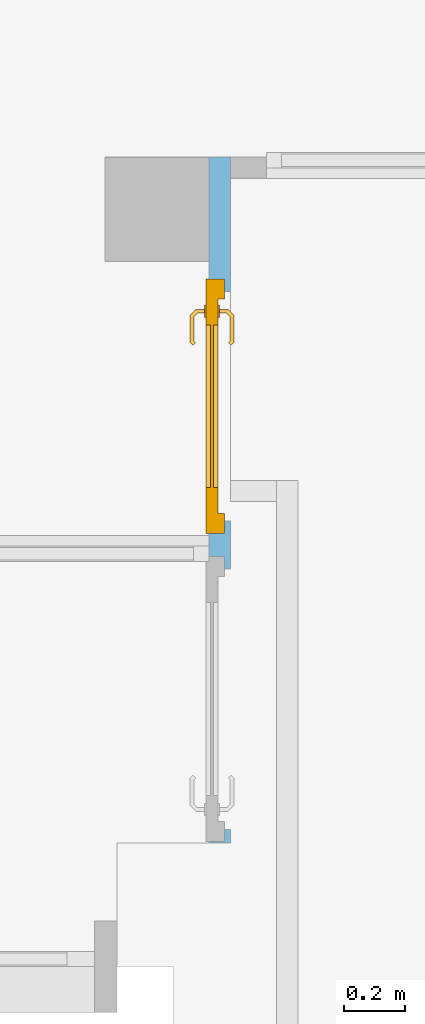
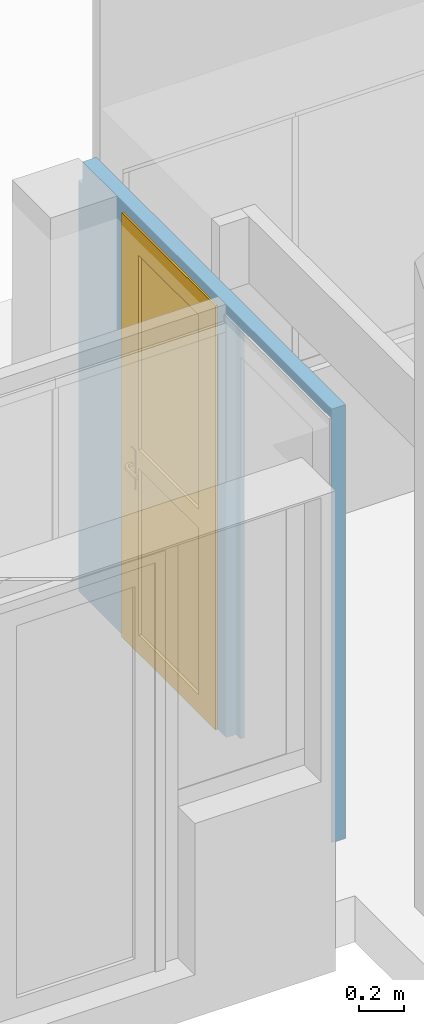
# One storey, part 9 of 19: 1 door, 2 openings, plus 1 element that does not belong to this part.
"""IFC4 building model written with IfcOpenShell, lengths in metres."""

import ifcopenshell
import ifcopenshell.guid

model = None  # the IFC model being written
_history = None  # IfcOwnerHistory: only IFC2X3 demands one
_inside = {}  # id of a spatial element -> (the spatial element, [elements in it])
_under = {}  # id of a project, library or spatial element -> (it, [spatial elements below it])
_declared = {}  # id of a project -> (the project, [libraries it declares])
_typed = {}  # id of a type object -> (the type object, [elements of that type])
_made_of = {}  # id of a material, layer set ... -> (it, [elements and type objects made of it])


def new_model(schema):
    """Start an empty IFC model of exactly this schema.

    Asked for "IFC4X3", IfcOpenShell would pick the latest addendum, in which some entities
    have other attributes; the version numbers below select the first issue.
    IFC2X3 requires an IfcOwnerHistory on every rooted entity: one is made here for all.
    """
    global model, _history
    if schema == "IFC4X3":
        model = ifcopenshell.file(schema_version=(4, 3, 0, 0))
    else:
        model = ifcopenshell.file(schema=schema)
    _inside.clear()
    _under.clear()
    _declared.clear()
    _typed.clear()
    _made_of.clear()
    _history = None
    if model.schema == "IFC2X3":
        org = make("IfcOrganization", Name="unknown")
        user = make(
            "IfcPersonAndOrganization",
            ThePerson=make("IfcPerson", FamilyName="unknown"),
            TheOrganization=org,
        )
        app = make(
            "IfcApplication",
            ApplicationDeveloper=org,
            Version="unknown",
            ApplicationFullName="unknown",
            ApplicationIdentifier="unknown",
        )
        _history = make(
            "IfcOwnerHistory",
            OwningUser=user,
            OwningApplication=app,
            ChangeAction="ADDED",
            CreationDate=0,
        )
    return model


def make(cls, **values):
    """One entity of the class cls with the attributes given. An attribute that is None is left unset."""
    return model.create_entity(
        cls, **{name: value for name, value in values.items() if value is not None}
    )


def entity(cls, *values):
    """Any entity or typed value of the class cls, its attributes in the order of the schema. None: left unset."""
    e = model.create_entity(cls)
    for i, value in enumerate(values):
        if value is not None:
            e[i] = value
    return e


def rooted(cls, **values):
    """An entity with a GlobalId (a new one), such as an element, a storey or a relation."""
    return make(cls, GlobalId=ifcopenshell.guid.new(), OwnerHistory=_history, **values)


def si_unit(unit_type, name, prefix=None):
    """IfcSIUnit, for example si_unit("LENGTHUNIT", "METRE", prefix="MILLI")."""
    return make("IfcSIUnit", UnitType=unit_type, Prefix=prefix, Name=name)


def converted_unit(unit_type, name, factor, base, dimensions=None, offset=None):
    """IfcConversionBasedUnit, such as the inch: factor (a typed value) times the base unit."""
    return make(
        "IfcConversionBasedUnit"
        if offset is None
        else "IfcConversionBasedUnitWithOffset",
        ConversionOffset=offset,
        Dimensions=None
        if dimensions is None
        else entity("IfcDimensionalExponents", *dimensions),
        UnitType=unit_type,
        Name=name,
        ConversionFactor=make(
            "IfcMeasureWithUnit", ValueComponent=factor, UnitComponent=base
        ),
    )


def derived_unit(unit_type, elements):
    """IfcDerivedUnit: a product of units, each with its exponent."""
    return make(
        "IfcDerivedUnit",
        Elements=[
            make("IfcDerivedUnitElement", Unit=unit, Exponent=power)
            for unit, power in elements
        ],
        UnitType=unit_type,
    )


def assignment(units):
    """IfcUnitAssignment: the units of a project."""
    return None if units is None else make("IfcUnitAssignment", Units=units)


def point(xyz):
    """IfcCartesianPoint."""
    return None if xyz is None else make("IfcCartesianPoint", Coordinates=xyz)


def direction(xyz):
    """IfcDirection."""
    return None if xyz is None else make("IfcDirection", DirectionRatios=xyz)


def frame(location, z_axis=None, x_axis=None):
    """IfcAxis2Placement3D, a coordinate frame: its origin and axes. An axis left out is left unset."""
    return make(
        "IfcAxis2Placement3D",
        Location=point(location),
        Axis=direction(z_axis),
        RefDirection=direction(x_axis),
    )


def origin():
    """The frame at (0, 0, 0) with its axes left unset."""
    return frame((0.0, 0.0, 0.0))


def place(relative_to, where):
    """IfcLocalPlacement: puts the frame where relative to a parent placement (None: the world)."""
    return make(
        "IfcLocalPlacement", PlacementRelTo=relative_to, RelativePlacement=where
    )


def context(
    kind, dimensions, precision=None, world=None, true_north=None, identifier=None
):
    """IfcGeometricRepresentationContext, for example the 3D "Model" context."""
    return make(
        "IfcGeometricRepresentationContext",
        ContextIdentifier=identifier,
        ContextType=kind,
        CoordinateSpaceDimension=dimensions,
        Precision=precision,
        WorldCoordinateSystem=world,
        TrueNorth=true_north,
    )


def subcontext(parent, identifier, kind, view, scale=None):
    """IfcGeometricRepresentationSubContext, for example "Body" below "Model"."""
    return make(
        "IfcGeometricRepresentationSubContext",
        ContextIdentifier=identifier,
        ContextType=kind,
        ParentContext=parent,
        TargetScale=scale,
        TargetView=view,
    )


def project(units=None, contexts=None):
    """IfcProject with its units and contexts."""
    return rooted(
        "IfcProject",
        Name="project",
        RepresentationContexts=contexts,
        UnitsInContext=assignment(units),
    )


def spatial(cls, under=None, at=None, **own):
    """A site, building, storey or space (cls), placed at a placement, below another one or the project."""
    s = rooted(cls, ObjectPlacement=at, **own)
    if under is not None:
        _under.setdefault(under.id(), (under, []))[1].append(s)
    return s


def point_list(points):
    """IfcCartesianPointList2D or 3D."""
    cls = (
        "IfcCartesianPointList2D" if len(points[0]) == 2 else "IfcCartesianPointList3D"
    )
    return make(cls, CoordList=points)


def polygons(points, faces, closed=None, point_numbers=None):
    """IfcPolygonalFaceSet: a face is its outer loop, then its inner loops; points numbered from 1."""
    made = []
    for loops in faces:
        if len(loops) == 1:
            made.append(make("IfcIndexedPolygonalFace", CoordIndex=loops[0]))
        else:
            made.append(
                make(
                    "IfcIndexedPolygonalFaceWithVoids",
                    CoordIndex=loops[0],
                    InnerCoordIndices=loops[1:],
                )
            )
    return make(
        "IfcPolygonalFaceSet",
        Coordinates=point_list(points),
        Closed=closed,
        Faces=made,
        PnIndex=point_numbers,
    )


def shape(context_of_items, identifier, shape_type, items):
    """IfcShapeRepresentation: the items that make up one representation, for example the "Body"."""
    return make(
        "IfcShapeRepresentation",
        ContextOfItems=context_of_items,
        RepresentationIdentifier=identifier,
        RepresentationType=shape_type,
        Items=items,
    )


def source(mapping_origin, context_of_items, identifier, shape_type, items):
    """IfcRepresentationMap: a shape defined once, which mapped items show again and again."""
    return make(
        "IfcRepresentationMap",
        MappingOrigin=mapping_origin,
        MappedRepresentation=shape(context_of_items, identifier, shape_type, items),
    )


def transform(
    local_origin,
    x_axis=None,
    y_axis=None,
    z_axis=None,
    scale=None,
    scale2=None,
    scale3=None,
    uniform=True,
):
    """IfcCartesianTransformationOperator3D, or its non-uniform kind. x_axis, y_axis, z_axis: its Axis1, 2, 3."""
    if uniform:
        return make(
            "IfcCartesianTransformationOperator3D",
            Axis1=direction(x_axis),
            Axis2=direction(y_axis),
            LocalOrigin=point(local_origin),
            Scale=scale,
            Axis3=direction(z_axis),
        )
    return make(
        "IfcCartesianTransformationOperator3DnonUniform",
        Axis1=direction(x_axis),
        Axis2=direction(y_axis),
        LocalOrigin=point(local_origin),
        Scale=scale,
        Axis3=direction(z_axis),
        Scale2=scale2,
        Scale3=scale3,
    )


def mapped(mapping_source, mapping_target):
    """IfcMappedItem: shows the shape of a source again, moved by a transform."""
    return make(
        "IfcMappedItem", MappingSource=mapping_source, MappingTarget=mapping_target
    )


def material(Name=None, Category=None):
    """IfcMaterial."""
    return make("IfcMaterial", Name=Name, Category=Category)


def material_list(materials):
    """IfcMaterialList."""
    return make("IfcMaterialList", Materials=materials)


def layer(
    of_material, thickness, ventilated=None, Name=None, Category=None, Priority=None
):
    """IfcMaterialLayer: one layer of a wall or slab, of a material (None: an air gap)."""
    return make(
        "IfcMaterialLayer",
        Material=of_material,
        LayerThickness=thickness,
        IsVentilated=ventilated,
        Name=Name,
        Category=Category,
        Priority=Priority,
    )


def layer_set(layers, Name=None):
    """IfcMaterialLayerSet."""
    return make("IfcMaterialLayerSet", MaterialLayers=layers, LayerSetName=Name)


def constituent(of_material, Name=None, Category=None, fraction=None):
    """IfcMaterialConstituent: one of the materials an element consists of."""
    return make(
        "IfcMaterialConstituent",
        Name=Name,
        Material=of_material,
        Fraction=fraction,
        Category=Category,
    )


def constituent_set(constituents=None, Name=None):
    """IfcMaterialConstituentSet."""
    return make(
        "IfcMaterialConstituentSet", Name=Name, MaterialConstituents=constituents
    )


def made_of(thing, what):
    """Note that an element or type object is made of a material, layer set ...; save() writes the relation."""
    if what is not None:
        _made_of.setdefault(what.id(), (what, []))[1].append(thing)
    return thing


def type_object(cls, material=None, **own):
    """A type object (cls), such as IfcWallType, which elements share."""
    return made_of(rooted(cls, **own), material)


def type_shapes(of_type, sources):
    """Give a type object the sources (RepresentationMaps) that its elements show as mapped items."""
    of_type.RepresentationMaps = sources


def element(
    cls,
    number,
    at=None,
    inside=None,
    cuts=None,
    type_object=None,
    material=None,
    context=None,
    identifier="Body",
    shape_type=None,
    held_by="IfcProductDefinitionShape",
    body=None,
    shapes=None,
    **own,
):
    """One element of the class cls, such as IfcWall. Its Tag is "e" and its number.

    at: its placement. inside: the storey or other place that contains it. cuts: it is an
    opening in that element (IfcRelVoidsElement). A single representation is given by context,
    identifier, shape_type and body (its items); several are given by shapes. held_by: the class
    of the entity that holds the representations. save() writes the other relations.
    """
    e = rooted(cls, Tag="e%d" % number, ObjectPlacement=at, **own)
    if body is not None:
        shapes = [shape(context, identifier, shape_type, body)]
    if shapes is not None:
        e.Representation = make(held_by, Representations=shapes)
    if inside is not None:
        _inside.setdefault(inside.id(), (inside, []))[1].append(e)
    if cuts is not None:
        rooted(
            "IfcRelVoidsElement", RelatingBuildingElement=cuts, RelatedOpeningElement=e
        )
    if type_object is not None:
        _typed.setdefault(type_object.id(), (type_object, []))[1].append(e)
    return made_of(e, material)


def fill(opening, filler):
    """IfcRelFillsElement: the door or window that sits in an opening."""
    return rooted(
        "IfcRelFillsElement",
        RelatingOpeningElement=opening,
        RelatedBuildingElement=filler,
    )


def aggregate(whole, parts):
    """IfcRelAggregates: a whole, such as a stair, and the parts it consists of."""
    return rooted("IfcRelAggregates", RelatingObject=whole, RelatedObjects=parts)


def save(model, path):
    """Write the relations noted so far, then the file.

    IfcRelAggregates (storeys below a building ...), IfcRelContainedInSpatialStructure (elements
    in a storey), IfcRelDefinesByType, IfcRelAssociatesMaterial and IfcRelDeclares: one each for
    every whole, place, type object, material and project.
    """
    for whole, parts in _under.values():
        aggregate(whole, parts)
    for where, things in _inside.values():
        rooted(
            "IfcRelContainedInSpatialStructure",
            RelatedElements=things,
            RelatingStructure=where,
        )
    for kind, things in _typed.values():
        rooted("IfcRelDefinesByType", RelatedObjects=things, RelatingType=kind)
    for what, things in _made_of.values():
        rooted("IfcRelAssociatesMaterial", RelatedObjects=things, RelatingMaterial=what)
    for by, libraries in _declared.values():
        rooted("IfcRelDeclares", RelatingContext=by, RelatedDefinitions=libraries)
    model.write(path)


model = new_model("IFC4")

# Units and contexts
model_context = context("Model", 3, precision=1e-05, world=origin(), true_north=direction((6.12303176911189e-17, 1.0)))
body_context = subcontext(model_context, "Body", "Model", "MODEL_VIEW")
ifc_project = project(units=[si_unit("LENGTHUNIT", "METRE"), si_unit("AREAUNIT", "SQUARE_METRE"), si_unit("VOLUMEUNIT", "CUBIC_METRE"), converted_unit("PLANEANGLEUNIT", "DEGREE", entity("IfcRatioMeasure", 0.0174532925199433), si_unit("PLANEANGLEUNIT", "RADIAN"), dimensions=[0, 0, 0, 0, 0, 0, 0]), si_unit("MASSUNIT", "GRAM", prefix="KILO"), derived_unit("MASSDENSITYUNIT", [(si_unit("MASSUNIT", "GRAM", prefix="KILO"), 1), (si_unit("LENGTHUNIT", "METRE"), -3)]), derived_unit("MOMENTOFINERTIAUNIT", [(si_unit("LENGTHUNIT", "METRE"), 4)]), si_unit("TIMEUNIT", "SECOND"), si_unit("FREQUENCYUNIT", "HERTZ"), si_unit("THERMODYNAMICTEMPERATUREUNIT", "DEGREE_CELSIUS"), derived_unit("THERMALTRANSMITTANCEUNIT", [(si_unit("MASSUNIT", "GRAM", prefix="KILO"), 1), (si_unit("THERMODYNAMICTEMPERATUREUNIT", "KELVIN"), -1), (si_unit("TIMEUNIT", "SECOND"), -3)]), derived_unit("VOLUMETRICFLOWRATEUNIT", [(si_unit("LENGTHUNIT", "METRE"), 3), (si_unit("TIMEUNIT", "SECOND"), -1)]), si_unit("ELECTRICCURRENTUNIT", "AMPERE"), si_unit("ELECTRICVOLTAGEUNIT", "VOLT"), si_unit("POWERUNIT", "WATT"), si_unit("FORCEUNIT", "NEWTON", prefix="KILO"), si_unit("ILLUMINANCEUNIT", "LUX"), si_unit("LUMINOUSFLUXUNIT", "LUMEN"), si_unit("LUMINOUSINTENSITYUNIT", "CANDELA"), derived_unit("USERDEFINED", [(si_unit("MASSUNIT", "GRAM", prefix="KILO"), -1), (si_unit("LENGTHUNIT", "METRE"), -2), (si_unit("TIMEUNIT", "SECOND"), 3), (si_unit("LUMINOUSFLUXUNIT", "LUMEN"), 1)]), derived_unit("LINEARVELOCITYUNIT", [(si_unit("LENGTHUNIT", "METRE"), 1), (si_unit("TIMEUNIT", "SECOND"), -1)]), si_unit("PRESSUREUNIT", "PASCAL"), derived_unit("USERDEFINED", [(si_unit("LENGTHUNIT", "METRE"), -2), (si_unit("MASSUNIT", "GRAM", prefix="KILO"), 1), (si_unit("TIMEUNIT", "SECOND"), -2)]), derived_unit("LINEARFORCEUNIT", [(si_unit("MASSUNIT", "GRAM", prefix="KILO"), 1), (si_unit("LENGTHUNIT", "METRE"), 1), (si_unit("TIMEUNIT", "SECOND"), -2), (si_unit("LENGTHUNIT", "METRE"), -1)]), derived_unit("PLANARFORCEUNIT", [(si_unit("MASSUNIT", "GRAM", prefix="KILO"), 1), (si_unit("LENGTHUNIT", "METRE"), 1), (si_unit("TIMEUNIT", "SECOND"), -2), (si_unit("LENGTHUNIT", "METRE"), -2)])], contexts=[model_context])

# Site, building, storey
site_placement = place(None, origin())
site = spatial("IfcSite", under=ifc_project, at=site_placement, Name="Default", CompositionType="ELEMENT")
building_placement = place(site_placement, origin())
building = spatial("IfcBuilding", under=site, at=building_placement, Name="HOTEL CONSULAIRE BOULOGNE SUR MER", CompositionType="ELEMENT")
storey_placement = place(building_placement, frame((0.0, 0.0, -4.01003075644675)))
storey = spatial("IfcBuildingStorey", under=building, at=storey_placement, Name="SS2", CompositionType="ELEMENT", Elevation=-4.01003075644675)

# Wall, openings, door
ifc_material_1 = material(Name="Mur par défaut", Category="Divers")
ifc_layer = layer(ifc_material_1, 0.07, Name="Mur par défaut", Category="Divers")
ifc_layer_set = layer_set([ifc_layer], Name="Mur de base:Générique - Int. 70 mm")
wall_type = type_object("IfcWallType", Name="Mur de base:Générique - Int. 70 mm", PredefinedType="NOTDEFINED", material=ifc_layer_set)
wall_placement = place(storey_placement, frame((-13.5103496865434, -14.4833241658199, 0.0), z_axis=(0.0, 0.0, 1.0), x_axis=(0.0, 1.0, 0.0)))
wall = element("IfcWall", 1, at=wall_placement, inside=storey, type_object=wall_type, material=ifc_layer_set, Name="Mur de base:Générique - Int. 70 mm", ObjectType="Mur de base:Générique - Int. 70 mm", PredefinedType="NOTDEFINED", context=body_context, shape_type="Tessellation", body=[
    polygons([(1.05000000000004, -0.0150000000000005, 0.0), (1.05000000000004, -0.0349999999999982, 0.0), (0.893999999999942, -0.0349999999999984, 0.0), (0.893999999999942, -0.0150000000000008, 0.0), (0.933999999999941, -0.0150000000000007, 0.0), (0.933999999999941, 0.0350000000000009, 0.0), (1.00399999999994, 0.035000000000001, 0.0), (1.01000000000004, 0.035000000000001, 0.0), (1.01000000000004, -0.0149999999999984, 0.0), (1.79999999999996, -0.0349999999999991, 0.0), (1.79999999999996, -0.0149999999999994, 0.0), (1.83999999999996, -0.0149999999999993, 0.0), (1.83999999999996, 0.0350000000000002, 0.0), (2.23817489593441, 0.0350000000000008, 0.0), (2.23817489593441, -0.0349999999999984, 0.0), (2.16817489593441, -0.0349999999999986, 0.0), (2.20317489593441, -0.0349999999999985, 2.34113097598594), (1.888, -0.0349999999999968, 2.34113097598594), (0.0, -0.0349999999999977, 2.34113097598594), (0.0, -0.0349999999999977, 0.0), (0.0440000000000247, -0.0349999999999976, 0.0), (0.0440000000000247, -0.0349999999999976, 2.25000000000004), (0.893999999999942, -0.0349999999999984, 2.25000000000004), (1.05000000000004, -0.0349999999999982, 2.25000000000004), (1.79999999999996, -0.034999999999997, 2.25000000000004), (2.23817489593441, -0.0349999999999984, 2.21931211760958), (2.20317489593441, -0.0349999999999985, 2.21931211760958), (0.0, 0.0350000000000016, 2.34113097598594), (0.933999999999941, 0.0350000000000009, 2.34113097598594), (1.00399999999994, 0.035000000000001, 2.34113097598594), (2.20317489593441, 0.0350000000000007, 2.34113097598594), (2.20317489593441, 0.0350000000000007, 2.21931211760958), (2.23817489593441, 0.0350000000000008, 2.21931211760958), (1.83999999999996, 0.0350000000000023, 2.29000000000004), (1.01000000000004, 0.035000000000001, 2.29000000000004), (0.933999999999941, 0.0350000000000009, 0.824265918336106), (0.933999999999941, 0.0350000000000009, 2.25353263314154), (0.933999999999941, 0.0350000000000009, 2.29000000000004), (0.00400000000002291, 0.0350000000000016, 2.29000000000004), (0.00400000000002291, 0.0350000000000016, 0.0), (0.0, 0.0350000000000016, 0.0), (0.00400000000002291, -0.015, 0.0), (0.0440000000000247, -0.015, 0.0), (0.0440000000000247, -0.015, 2.25000000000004), (0.893999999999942, -0.0149999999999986, 2.25000000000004), (0.00400000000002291, -0.0149999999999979, 2.29000000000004), (0.933999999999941, -0.0150000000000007, 2.29000000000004), (1.05000000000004, -0.0149999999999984, 2.25000000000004), (1.79999999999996, -0.0149999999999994, 2.25000000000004), (1.83999999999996, -0.0149999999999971, 2.29000000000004), (1.01000000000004, -0.0149999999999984, 2.29000000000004)], [[[2, 3, 4, 5, 6, 7, 8, 9, 1]], [[16, 10, 11, 12, 13, 14, 15]], [[43, 21, 20, 41, 40, 42]], [[45, 23, 22, 44]], [[46, 39, 38, 47]], [[25, 24, 48, 49]], [[35, 34, 50, 51]], [[20, 21, 22, 23, 3, 2, 24, 25, 10, 16, 15, 26, 27, 17, 18, 19]], [[14, 13, 34, 35, 8, 7, 6, 36, 37, 38, 39, 40, 41, 28, 29, 30, 31, 32, 33]], [[43, 42, 46, 47, 5, 4, 45, 44]], [[49, 48, 1, 9, 51, 50, 12, 11]], [[18, 17, 31, 30, 29, 28, 19]], [[33, 32, 27, 26]], [[20, 19, 28, 41]], [[23, 45, 4, 3]], [[47, 38, 37, 36, 6, 5]], [[10, 25, 49, 11]], [[34, 13, 12, 50]], [[44, 22, 21, 43]], [[42, 40, 39, 46]], [[1, 48, 24, 2]], [[8, 35, 51, 9]], [[17, 27, 32, 31]], [[26, 15, 14, 33]]], closed=True),
])
opening_1_placement = place(wall_placement, frame((1.01000000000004, 0.334999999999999, 0.0), z_axis=(0.0, 0.0, 1.0), x_axis=(0.0, -1.0, 0.0)))
opening_1 = element("IfcOpeningElement", 2, at=opening_1_placement, cuts=wall, Name="Mur de base:Générique - Int. 70 mm", ObjectType="Opening", PredefinedType="OPENING", context=body_context, shape_type="Tessellation", body=[
    polygons([(0.670000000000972, 0.789999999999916, 2.25000000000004), (0.350000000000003, 0.789999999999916, 2.25000000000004), (0.350000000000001, 0.0399999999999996, 2.25000000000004), (0.67000000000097, 0.0399999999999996, 2.25000000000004), (0.670000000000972, 0.789999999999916, 0.0), (0.350000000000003, 0.789999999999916, 0.0), (2.16573425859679e-15, 0.0399999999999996, 0.0), (0.300000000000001, 0.0399999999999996, 0.0), (0.300000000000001, 0.0399999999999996, 2.25000000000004), (2.16573425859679e-15, 0.0399999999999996, 2.25000000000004), (0.300000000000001, 0.789999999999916, 2.25000000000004), (2.16573425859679e-15, 0.789999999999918, 2.25000000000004), (0.67000000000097, 0.0399999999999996, 0.0), (0.350000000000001, 0.0399999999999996, 0.0), (0.350000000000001, 0.0, 0.0), (0.300000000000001, 0.0, 0.0), (2.16573425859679e-15, 0.789999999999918, 0.0), (0.300000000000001, 0.789999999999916, 0.0), (0.300000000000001, 0.829999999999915, 0.0), (0.350000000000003, 0.829999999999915, 0.0), (0.299999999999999, -2.16573425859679e-15, 2.29000000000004), (0.300000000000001, 0.829999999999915, 2.29000000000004), (0.350000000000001, 0.829999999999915, 2.29000000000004), (0.350000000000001, -2.16573425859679e-15, 2.29000000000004)], [[[3, 4, 1, 2]], [[10, 9, 11, 12]], [[23, 22, 21, 24]], [[2, 1, 5, 6]], [[12, 11, 18, 17]], [[20, 19, 22, 23]], [[9, 10, 7, 8]], [[4, 3, 14, 13]], [[24, 21, 16, 15]], [[6, 5, 13, 14, 15, 16, 8, 7, 17, 18, 19, 20]], [[1, 4, 13, 5]], [[6, 20, 23, 24, 15, 14, 3, 2]], [[10, 12, 17, 7]], [[8, 16, 21, 22, 19, 18, 11, 9]]], closed=True),
])
opening_2_placement = place(wall_placement, frame((0.00400000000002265, 0.334999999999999, 0.0), z_axis=(0.0, 0.0, 1.0), x_axis=(0.0, -1.0, 0.0)))
element("IfcOpeningElement", 3, at=opening_2_placement, cuts=wall, Name="Mur de base:Générique - Int. 70 mm", ObjectType="Opening", PredefinedType="OPENING", context=body_context, shape_type="Tessellation", body=[
    polygons([(2.16573425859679e-15, 0.889999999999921, 2.25000000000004), (0.0, 0.0400000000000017, 2.25000000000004), (0.299999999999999, 0.0400000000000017, 2.25000000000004), (0.300000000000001, 0.889999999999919, 2.25000000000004), (0.0, 0.0400000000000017, 0.0), (0.299999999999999, 0.0400000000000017, 0.0), (0.0, 0.889999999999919, 0.0), (0.299999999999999, 0.889999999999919, 0.0), (0.67000000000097, 0.0400000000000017, 2.25000000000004), (0.670000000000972, 0.889999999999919, 2.25000000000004), (0.350000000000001, 0.889999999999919, 2.25000000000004), (0.350000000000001, 0.0400000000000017, 2.25000000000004), (0.670000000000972, 0.889999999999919, 0.0), (0.67000000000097, 0.0400000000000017, 0.0), (0.350000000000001, 0.0400000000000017, 0.0), (0.350000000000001, 2.16573425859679e-15, 0.0), (0.299999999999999, 2.16573425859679e-15, 0.0), (0.300000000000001, 0.929999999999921, 0.0), (0.350000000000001, 0.929999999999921, 0.0), (0.350000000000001, 0.889999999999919, 0.0), (0.299999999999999, 2.16573425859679e-15, 2.29000000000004), (0.300000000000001, 0.929999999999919, 2.29000000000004), (0.349999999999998, 0.0, 2.29000000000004), (0.350000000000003, 0.929999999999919, 2.29000000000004)], [[[3, 4, 1, 2]], [[12, 9, 10, 11]], [[22, 21, 23, 24]], [[5, 6, 3, 2]], [[14, 9, 12, 15]], [[21, 17, 16, 23]], [[8, 7, 1, 4]], [[20, 11, 10, 13]], [[18, 22, 24, 19]], [[13, 14, 15, 16, 17, 6, 5, 7, 8, 18, 19, 20]], [[13, 10, 9, 14]], [[12, 11, 20, 19, 24, 23, 16, 15]], [[5, 2, 1, 7]], [[4, 3, 6, 17, 21, 22, 18, 8]]], closed=True),
])
ifc_material_2 = material(Name="PVC - Blanc", Category="Plastique")
ifc_constituent_1 = constituent(ifc_material_2, Name="PVC - Blanc", Category="Matériaux")
ifc_material_3 = material(Name="Verre", Category="Verre")
ifc_constituent_2 = constituent(ifc_material_3, Name="Verre", Category="Matériaux")
ifc_constituent_set = constituent_set(constituents=[ifc_constituent_1, ifc_constituent_2], Name="MaterialConstituentSet")
ifc_material_list = material_list([ifc_material_2, ifc_material_2, ifc_material_2])
door_type = type_object("IfcDoorType", Name="PVC Panneau Vitré :0.73m x 2.24", OperationType="SINGLE_SWING_RIGHT", PredefinedType="DOOR", material=ifc_material_list)
shared_shape = source(origin(), body_context, "Body", "Tessellation", [
    polygons([(0.110999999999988, 0.335, 0.99300000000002), (0.110999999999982, 0.335, 1.00699999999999), (0.107025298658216, 0.335, 1.00778044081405), (0.102974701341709, 0.335, 1.00778044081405), (0.0989999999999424, 0.335, 1.00699999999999), (0.0989999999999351, 0.335, 0.992999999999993), (0.102974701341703, 0.335, 0.992219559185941), (0.107025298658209, 0.335, 0.992219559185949), (0.110999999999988, 0.357485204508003, 0.99300000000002), (0.110999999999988, 0.357485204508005, 1.00699999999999), (0.107025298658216, 0.359131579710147, 1.00778044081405), (0.10297470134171, 0.360809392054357, 1.00778044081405), (0.0989999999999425, 0.362455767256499, 1.00699999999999), (0.0989999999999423, 0.362455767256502, 0.992999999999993), (0.102974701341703, 0.360809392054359, 0.992219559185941), (0.107025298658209, 0.35913157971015, 0.992219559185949), (0.122485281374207, 0.368970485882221, 0.99300000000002), (0.122485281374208, 0.368970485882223, 1.00699999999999), (0.120838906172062, 0.372945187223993, 1.00778044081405), (0.119161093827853, 0.376995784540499, 1.00778044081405), (0.117514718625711, 0.380970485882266, 1.00699999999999), (0.117514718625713, 0.380970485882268, 0.992999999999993), (0.119161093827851, 0.376995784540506, 0.992219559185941), (0.120838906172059, 0.372945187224, 0.992219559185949), (0.202560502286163, 0.368970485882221, 0.993000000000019), (0.202560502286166, 0.368970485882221, 1.00699999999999), (0.204206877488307, 0.372945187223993, 1.00778044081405), (0.205884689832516, 0.376995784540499, 1.00778044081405), (0.207531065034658, 0.380970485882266, 1.00699999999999), (0.16760057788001, 0.380970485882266, 1.00699999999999), (0.162522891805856, 0.375124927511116, 1.00787811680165), (0.162522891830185, 0.368970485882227, 1.00699999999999), (0.207531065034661, 0.380970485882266, 0.992999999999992), (0.205884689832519, 0.376995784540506, 0.992219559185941), (0.20420687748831, 0.372945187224, 0.992219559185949), (0.157445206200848, 0.380970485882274, 0.992999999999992), (0.162522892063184, 0.375124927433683, 0.992121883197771), (0.162522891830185, 0.368970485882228, 0.993000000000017), (0.20787421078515, 0.363656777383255, 0.993000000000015), (0.210684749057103, 0.366467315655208, 0.992219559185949), (0.21354895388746, 0.369331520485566, 0.992219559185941), (0.21635949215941, 0.372142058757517, 0.99299999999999), (0.21635949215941, 0.372142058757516, 1.00699999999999), (0.213548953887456, 0.369331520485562, 1.00778044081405), (0.210684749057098, 0.366467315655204, 1.00778044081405), (0.20787421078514, 0.363656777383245, 1.00699999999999)], [[[4, 5, 6, 7, 8, 1, 2, 3]], [[18, 17, 38, 25, 26, 32]], [[2, 1, 9, 10]], [[10, 11, 3, 2]], [[11, 19, 20, 12, 4, 3]], [[45, 44, 28, 27]], [[12, 13, 5, 4]], [[6, 5, 13, 14]], [[14, 15, 7, 6]], [[15, 23, 24, 16, 8, 7]], [[41, 40, 35, 34]], [[16, 9, 1, 8]], [[10, 9, 17, 18]], [[39, 40, 41, 42, 43, 44, 45, 46]], [[18, 19, 11, 10]], [[20, 21, 13, 12]], [[14, 13, 21, 22]], [[22, 23, 15, 14]], [[24, 17, 9, 16]], [[19, 32, 31]], [[28, 29, 30]], [[21, 20, 30]], [[30, 20, 31]], [[31, 32, 27]], [[27, 28, 31]], [[32, 19, 18]], [[26, 27, 32]], [[19, 31, 20]], [[30, 31, 28]], [[22, 21, 30, 29, 33, 36]], [[36, 37, 23]], [[37, 36, 34]], [[23, 22, 36]], [[33, 34, 36]], [[37, 38, 24]], [[24, 23, 37]], [[35, 38, 37]], [[17, 24, 38]], [[38, 35, 25]], [[35, 37, 34]], [[26, 25, 39, 46]], [[46, 45, 27, 26]], [[44, 43, 29, 28]], [[33, 29, 43, 42]], [[42, 41, 34, 33]], [[40, 39, 25, 35]]], closed=True),
    polygons([(0.0989999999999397, 0.285, 1.00699999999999), (0.102974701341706, 0.285, 1.00778044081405), (0.107025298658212, 0.285, 1.00778044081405), (0.110999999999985, 0.285, 1.00699999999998), (0.110999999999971, 0.285, 0.993000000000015), (0.107025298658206, 0.285, 0.992219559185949), (0.1029747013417, 0.285, 0.992219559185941), (0.0989999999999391, 0.285, 0.992999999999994), (0.0989999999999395, 0.257349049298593, 1.00699999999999), (0.102974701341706, 0.258995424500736, 1.00778044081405), (0.107025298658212, 0.260673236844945, 1.00778044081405), (0.110999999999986, 0.26231961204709, 1.00699999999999), (0.110999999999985, 0.262319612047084, 0.993000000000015), (0.107025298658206, 0.260673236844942, 0.992219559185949), (0.1029747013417, 0.258995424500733, 0.992219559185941), (0.0989999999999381, 0.257349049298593, 0.992999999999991), (0.117377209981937, 0.238971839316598, 1.00699999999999), (0.119023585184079, 0.242946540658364, 1.00778044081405), (0.120701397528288, 0.24699713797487, 1.00778044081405), (0.122347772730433, 0.250971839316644, 1.00699999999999), (0.122347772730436, 0.250971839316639, 0.993000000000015), (0.120701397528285, 0.246997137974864, 0.992219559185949), (0.119023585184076, 0.242946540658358, 0.992219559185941), (0.117377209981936, 0.238971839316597, 0.992999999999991), (0.207503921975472, 0.238971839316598, 1.00699999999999), (0.20585754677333, 0.242946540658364, 1.00778044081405), (0.204179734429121, 0.24699713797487, 1.00778044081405), (0.202533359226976, 0.250971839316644, 1.00699999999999), (0.157307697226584, 0.238971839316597, 1.00699999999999), (0.162440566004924, 0.244817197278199, 1.00787811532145), (0.162440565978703, 0.25097183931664, 1.00699999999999), (0.202533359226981, 0.250971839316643, 0.993000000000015), (0.204179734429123, 0.246997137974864, 0.992219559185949), (0.205857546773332, 0.242946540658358, 0.992219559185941), (0.207503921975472, 0.238971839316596, 0.99299999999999), (0.16757343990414, 0.238971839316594, 0.992999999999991), (0.162440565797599, 0.244817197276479, 0.992121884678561), (0.162440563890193, 0.250971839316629, 0.993000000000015), (0.216332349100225, 0.247800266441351, 1.00699999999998), (0.21633234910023, 0.247800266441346, 0.992999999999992), (0.213521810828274, 0.250610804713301, 0.992219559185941), (0.210657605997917, 0.253475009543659, 0.992219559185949), (0.207847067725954, 0.256285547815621, 0.993000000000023), (0.207847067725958, 0.256285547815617, 1.00699999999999), (0.210657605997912, 0.253475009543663, 1.00778044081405), (0.21352181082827, 0.250610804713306, 1.00778044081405)], [[[2, 3, 4, 5, 6, 7, 8, 1]], [[21, 20, 31, 28, 32, 38]], [[9, 10, 2, 1]], [[10, 18, 19, 11, 3, 2]], [[46, 45, 27, 26]], [[11, 12, 4, 3]], [[5, 4, 12, 13]], [[13, 14, 6, 5]], [[14, 22, 23, 15, 7, 6]], [[42, 41, 34, 33]], [[15, 16, 8, 7]], [[1, 8, 16, 9]], [[17, 18, 10, 9]], [[19, 20, 12, 11]], [[13, 12, 20, 21]], [[44, 45, 46, 39, 40, 41, 42, 43]], [[21, 22, 14, 13]], [[23, 24, 16, 15]], [[9, 16, 24, 17]], [[29, 30, 18]], [[30, 29, 26]], [[18, 17, 29]], [[25, 26, 29]], [[30, 31, 19]], [[19, 18, 30]], [[27, 31, 30]], [[20, 19, 31]], [[31, 27, 28]], [[27, 30, 26]], [[22, 38, 37]], [[34, 35, 36]], [[24, 23, 36]], [[36, 23, 37]], [[37, 38, 33]], [[33, 34, 37]], [[38, 22, 21]], [[32, 33, 38]], [[22, 37, 23]], [[36, 37, 34]], [[17, 24, 36, 35, 25, 29]], [[39, 46, 26, 25]], [[45, 44, 28, 27]], [[32, 28, 44, 43]], [[43, 42, 33, 32]], [[41, 40, 35, 34]], [[25, 35, 40, 39]]], closed=True),
    polygons([(0.124999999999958, 0.33, 1.08), (0.115352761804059, 0.33, 1.08399601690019), (0.104999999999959, 0.33, 1.08535898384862), (0.0946472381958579, 0.33, 1.08399601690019), (0.0849999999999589, 0.33, 1.08), (0.084999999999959, 0.33, 0.870000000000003), (0.0946472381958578, 0.33, 0.866003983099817), (0.104999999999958, 0.33, 0.864641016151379), (0.115352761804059, 0.33, 0.866003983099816), (0.124999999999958, 0.33, 0.870000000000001), (0.124999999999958, 0.335, 1.08), (0.124999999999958, 0.335, 0.870000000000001), (0.115352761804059, 0.335, 0.866003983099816), (0.104999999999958, 0.335, 0.864641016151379), (0.0946472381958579, 0.335, 0.866003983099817), (0.0849999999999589, 0.335, 0.870000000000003), (0.0849999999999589, 0.335, 1.08), (0.0946472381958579, 0.335, 1.08399601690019), (0.104999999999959, 0.335, 1.08535898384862), (0.115352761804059, 0.335, 1.08399601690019)], [[[9, 10, 1, 2, 3, 4, 5, 6, 7, 8]], [[20, 11, 12, 13, 14, 15, 16, 17, 18, 19]], [[11, 20, 2, 1]], [[2, 20, 19, 3]], [[19, 18, 4, 3]], [[18, 17, 5, 4]], [[6, 5, 17, 16]], [[16, 15, 7, 6]], [[7, 15, 14, 8]], [[14, 13, 9, 8]], [[13, 12, 10, 9]], [[1, 10, 12, 11]]], closed=True),
    polygons([(0.0849999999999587, 0.285, 0.870000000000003), (0.0946472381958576, 0.285, 0.866003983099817), (0.104999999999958, 0.285, 0.864641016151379), (0.115352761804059, 0.285, 0.866003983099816), (0.124999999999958, 0.285, 0.870000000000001), (0.124999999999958, 0.285, 1.08), (0.115352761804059, 0.285, 1.08399601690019), (0.104999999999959, 0.285, 1.08535898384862), (0.094647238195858, 0.285, 1.08399601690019), (0.0849999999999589, 0.285, 1.08), (0.0849999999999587, 0.29, 0.870000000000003), (0.0849999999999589, 0.29, 1.08), (0.094647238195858, 0.29, 1.08399601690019), (0.104999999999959, 0.29, 1.08535898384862), (0.115352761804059, 0.29, 1.08399601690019), (0.124999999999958, 0.29, 1.08), (0.124999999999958, 0.29, 0.870000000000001), (0.115352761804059, 0.29, 0.866003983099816), (0.104999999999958, 0.29, 0.864641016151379), (0.0946472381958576, 0.29, 0.866003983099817)], [[[4, 5, 6, 7, 8, 9, 10, 1, 2, 3]], [[15, 16, 17, 18, 19, 20, 11, 12, 13, 14]], [[11, 20, 2, 1]], [[2, 20, 19, 3]], [[19, 18, 4, 3]], [[18, 17, 5, 4]], [[6, 5, 17, 16]], [[16, 15, 7, 6]], [[7, 15, 14, 8]], [[14, 13, 9, 8]], [[13, 12, 10, 9]], [[1, 10, 12, 11]]], closed=True),
    polygons([(1.35358391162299e-16, 0.29, 0.0), (1.35358391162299e-16, 0.35, 0.0), (0.0649999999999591, 0.35, 0.0), (0.0649999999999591, 0.33, 0.0), (0.0499999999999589, 0.33, 0.0), (0.0499999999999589, 0.29, 0.0), (6.76791955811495e-17, 0.29, 2.29000000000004), (6.76791955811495e-17, 0.35, 2.29000000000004), (0.829999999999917, 0.35, 2.29000000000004), (0.829999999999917, 0.35, 4.08683867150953e-24), (0.764999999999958, 0.35, -7.046294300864e-25), (0.764999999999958, 0.35, 2.22500000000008), (0.0649999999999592, 0.35, 2.22500000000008), (0.0649999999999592, 0.33, 2.22500000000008), (0.764999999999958, 0.33, 2.22500000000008), (0.764999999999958, 0.33, -5.07648659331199e-24), (0.779999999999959, 0.33, -3.44475160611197e-25), (0.779999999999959, 0.33, 2.24000000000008), (0.0499999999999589, 0.33, 2.24000000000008), (0.0499999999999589, 0.29, 2.24000000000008), (0.779999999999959, 0.29, 2.24000000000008), (0.779999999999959, 0.29, 4.03399441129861e-24), (0.829999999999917, 0.29, 4.03399441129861e-24), (0.829999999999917, 0.29, 2.29000000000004)], [[[5, 6, 1, 2, 3, 4]], [[10, 23, 22, 17, 16, 11]], [[14, 13, 12, 15]], [[20, 19, 18, 21]], [[2, 1, 7, 8]], [[15, 12, 11, 16]], [[21, 18, 17, 22]], [[3, 2, 8, 9, 10, 11, 12, 13]], [[4, 3, 13, 14]], [[6, 5, 19, 20]], [[9, 24, 23, 10]], [[16, 17, 18, 19, 5, 4, 14, 15]], [[22, 23, 24, 7, 1, 6, 20, 21]], [[8, 7, 24, 9]]], closed=True),
    polygons([(0.150000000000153, 0.315000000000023, 2.15000000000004), (0.680000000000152, 0.315000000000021, 2.15000000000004), (0.680000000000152, 0.315000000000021, 1.1), (0.150000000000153, 0.315000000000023, 1.1), (0.150000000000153, 0.305000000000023, 2.15000000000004), (0.150000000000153, 0.305000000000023, 1.1), (0.680000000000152, 0.305000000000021, 1.1), (0.680000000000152, 0.305000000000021, 2.15000000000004)], [[[3, 4, 1, 2]], [[8, 5, 6, 7]], [[6, 5, 1, 4]], [[7, 6, 4, 3]], [[8, 7, 3, 2]], [[5, 8, 2, 1]]], closed=True),
    polygons([(0.680000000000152, 0.305000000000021, 1.0), (0.150000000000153, 0.305000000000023, 1.0), (0.150000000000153, 0.305000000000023, 0.0999999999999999), (0.680000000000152, 0.305000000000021, 0.0999999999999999), (0.680000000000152, 0.315000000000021, 1.0), (0.680000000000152, 0.315000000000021, 0.0999999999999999), (0.150000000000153, 0.315000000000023, 0.0999999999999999), (0.150000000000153, 0.315000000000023, 1.0)], [[[1, 2, 3, 4]], [[6, 7, 8, 5]], [[2, 1, 5, 8]], [[3, 2, 8, 7]], [[4, 3, 7, 6]], [[1, 4, 6, 5]]], closed=True),
    polygons([(0.0499999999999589, 0.29, 2.24000000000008), (0.0499999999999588, 0.29, -1.4098564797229e-16), (0.779999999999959, 0.29, -2.70716777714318e-16), (0.779999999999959, 0.29, 2.24000000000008), (0.680000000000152, 0.29, 2.15000000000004), (0.680000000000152, 0.29, 1.1), (0.150000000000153, 0.29, 1.1), (0.150000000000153, 0.29, 2.15000000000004), (0.680000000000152, 0.29, 0.0999999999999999), (0.150000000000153, 0.29, 0.0999999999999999), (0.150000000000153, 0.29, 1.0), (0.680000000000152, 0.29, 1.0), (0.0499999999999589, 0.33, 2.24000000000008), (0.779999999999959, 0.33, 2.24000000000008), (0.779999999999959, 0.33, -2.70716781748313e-16), (0.0499999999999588, 0.33, -2.70716786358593e-16), (0.680000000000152, 0.33, 2.15000000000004), (0.150000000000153, 0.33, 2.15000000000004), (0.150000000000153, 0.33, 1.1), (0.680000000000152, 0.33, 1.1), (0.680000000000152, 0.33, 0.0999999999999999), (0.680000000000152, 0.33, 1.0), (0.150000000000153, 0.33, 1.0), (0.150000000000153, 0.33, 0.0999999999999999)], [[[1, 2, 3, 4], [8, 5, 6, 7], [11, 12, 9, 10]], [[16, 13, 14, 15], [24, 21, 22, 23], [19, 20, 17, 18]], [[2, 1, 13, 16]], [[6, 5, 17, 20]], [[9, 12, 22, 21]], [[3, 2, 16, 15]], [[5, 8, 18, 17]], [[12, 11, 23, 22]], [[4, 3, 15, 14]], [[8, 7, 19, 18]], [[11, 10, 24, 23]], [[1, 4, 14, 13]], [[7, 6, 20, 19]], [[10, 9, 21, 24]]], closed=True),
])
type_shapes(door_type, [shared_shape])
door_placement = place(opening_1_placement, frame((0.0, 0.829999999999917, 0.0), z_axis=(0.0, 0.0, 1.0), x_axis=(0.0, -1.0, 0.0)))
door = element("IfcDoor", 4, at=door_placement, inside=storey, type_object=door_type, material=ifc_constituent_set, Name="PVC Panneau Vitré :0.73m x 2.24", ObjectType="PVC Panneau Vitré :0.73m x 2.24", OperationType="SINGLE_SWING_RIGHT", OverallHeight=2.29000000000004, OverallWidth=0.829999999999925, PredefinedType="DOOR", context=body_context, shape_type="MappedRepresentation", body=[
    mapped(shared_shape, transform((0.0, 0.0, 0.0), scale=1.0)),
])
fill(opening_1, door)

save(model, "model.ifc")
